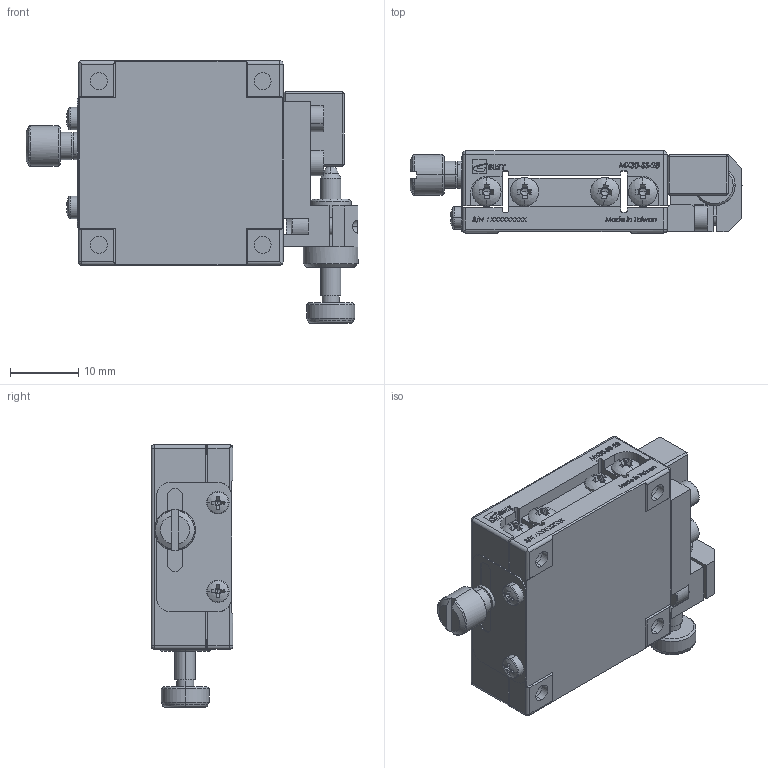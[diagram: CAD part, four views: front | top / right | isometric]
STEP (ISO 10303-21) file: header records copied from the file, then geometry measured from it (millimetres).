
FILE_DESCRIPTION (( 'STEP AP203' ), '1' );
FILE_NAME ('MX30-SS-28(«¬¿ý).STEP', '2013-05-18T06:36:10', ( '123' ), ( '' ), 'SwSTEP 2.0', 'SolidWorks 2013', '' );
FILE_SCHEMA (( 'CONFIG_CONTROL_DESIGN' ));
Length unit declared in the file: millimetre
Products named in the file (3): Group2^MX30-SS-28(型錄); MX30-SS-28(型錄); Group1^MX30-SS-28(型錄)
Assembly tree (2 placements, depth 2):
  MX30-SS-28(型錄)
    Group1^MX30-SS-28(型錄)
    Group2^MX30-SS-28(型錄)
Bounding box: 48.7 x 12 x 38.5 mm (x, y, z)
Volume: 11498.8 mm3; surface area: 8013.3 mm2
Topology: 2 solids, 2 shells, 1318 faces, 3495 edges, 2230 vertices
Faces by surface type: plane 811, cylinder 198, bspline 164, cone 97, sphere 28, torus 20
Entity records: 48983 total; most frequent: CARTESIAN_POINT 16804, ORIENTED_EDGE 6922, DIRECTION 6184, EDGE_CURVE 3461, VERTEX_POINT 2230, VECTOR 2164, LINE 2164, AXIS2_PLACEMENT_3D 2010
